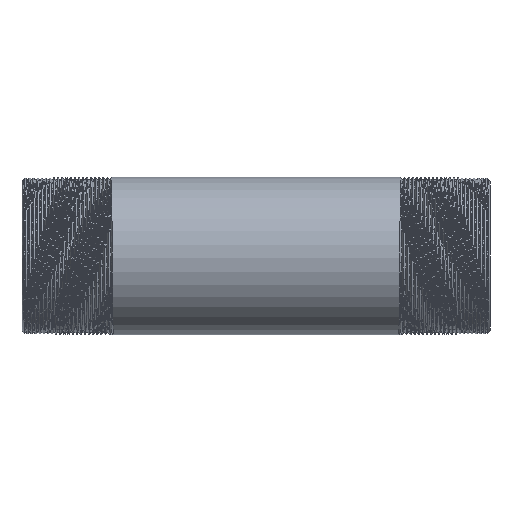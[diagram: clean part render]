
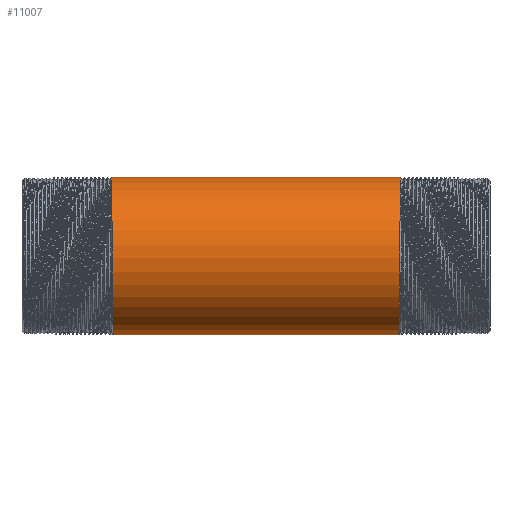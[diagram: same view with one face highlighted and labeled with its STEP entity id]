
A CAD part, front view. The second image highlights one B-rep face of the part: STEP entity #11007.
In plain terms, the highlighted cylindrical face has radius 13.45 mm (diameter 26.9 mm), a partial arc.
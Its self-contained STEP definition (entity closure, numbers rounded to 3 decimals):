
#71 = CARTESIAN_POINT ( 'NONE',  ( -24.621, -11.648, 6.725 ) ) ;
#1162 = DIRECTION ( 'NONE',  ( -1., 0., 0. ) ) ;
#1711 =( BOUNDED_CURVE ( )  B_SPLINE_CURVE ( 2, ( #7189, #7510, #16205, #8519, #2371, #4941, #13785 ),
 .UNSPECIFIED., .F., .T. ) 
 B_SPLINE_CURVE_WITH_KNOTS ( ( 3, 2, 2, 3 ),
 ( 0., 0.006, 0.011, 0.017 ),
 .UNSPECIFIED. ) 
 CURVE ( )  GEOMETRIC_REPRESENTATION_ITEM ( )  RATIONAL_B_SPLINE_CURVE ( ( 1., 0.866, 1., 0.866, 1., 0.866, 1. ) ) 
 REPRESENTATION_ITEM ( '' )  );
#1958 = ORIENTED_EDGE ( 'NONE', *, *, #3857, .F. ) ;
#2371 = CARTESIAN_POINT ( 'NONE',  ( 24.621, -11.648, 6.725 ) ) ;
#2486 = FACE_OUTER_BOUND ( 'NONE', #13089, .T. ) ;
#2636 = DIRECTION ( 'NONE',  ( -1., 0., 0. ) ) ;
#3365 = VECTOR ( 'NONE', #10180, 1000. ) ;
#3857 = EDGE_CURVE ( 'NONE', #6357, #6567, #11305, .T. ) ;
#4369 = EDGE_CURVE ( 'NONE', #9084, #6357, #8693, .T. ) ;
#4547 = ORIENTED_EDGE ( 'NONE', *, *, #4369, .F. ) ;
#4941 = CARTESIAN_POINT ( 'NONE',  ( 24.679, -7.765, 13.45 ) ) ;
#5143 = CARTESIAN_POINT ( 'NONE',  ( -24.679, -7.765, 13.45 ) ) ;
#6072 = LINE ( 'NONE', #7230, #10807 ) ;
#6357 = VERTEX_POINT ( 'NONE', #16415 ) ;
#6382 = CYLINDRICAL_SURFACE ( 'NONE', #9098, 13.45 ) ;
#6389 = CARTESIAN_POINT ( 'NONE',  ( -24.563, -15.531, 0. ) ) ;
#6567 = VERTEX_POINT ( 'NONE', #14900 ) ;
#7189 = CARTESIAN_POINT ( 'NONE',  ( 24.388, 0., -13.45 ) ) ;
#7230 = CARTESIAN_POINT ( 'NONE',  ( -149.494, 0., 13.45 ) ) ;
#7510 = CARTESIAN_POINT ( 'NONE',  ( 24.446, -7.765, -13.45 ) ) ;
#7626 = DIRECTION ( 'NONE',  ( 0., 0., 1. ) ) ;
#7989 = CARTESIAN_POINT ( 'NONE',  ( 24.388, 0., -13.45 ) ) ;
#8519 = CARTESIAN_POINT ( 'NONE',  ( 24.563, -15.531, 0. ) ) ;
#8693 = LINE ( 'NONE', #12688, #3365 ) ;
#9060 = VERTEX_POINT ( 'NONE', #12921 ) ;
#9084 = VERTEX_POINT ( 'NONE', #7989 ) ;
#9098 = AXIS2_PLACEMENT_3D ( 'NONE', #10135, #2636, #7626 ) ;
#9423 = ORIENTED_EDGE ( 'NONE', *, *, #13637, .T. ) ;
#10135 = CARTESIAN_POINT ( 'NONE',  ( -149.494, 0., 0. ) ) ;
#10180 = DIRECTION ( 'NONE',  ( -1., 0., 0. ) ) ;
#10218 = CARTESIAN_POINT ( 'NONE',  ( -24.738, 0., 13.45 ) ) ;
#10807 = VECTOR ( 'NONE', #1162, 1000. ) ;
#11007 = ADVANCED_FACE ( 'NONE', ( #2486 ), #6382, .T. ) ;
#11305 =( BOUNDED_CURVE ( )  B_SPLINE_CURVE ( 2, ( #15313, #13985, #13826, #6389, #71, #5143, #10218 ),
 .UNSPECIFIED., .F., .F. ) 
 B_SPLINE_CURVE_WITH_KNOTS ( ( 3, 2, 2, 3 ),
 ( 0., 0.006, 0.011, 0.017 ),
 .UNSPECIFIED. ) 
 CURVE ( )  GEOMETRIC_REPRESENTATION_ITEM ( )  RATIONAL_B_SPLINE_CURVE ( ( 1., 0.866, 1., 0.866, 1., 0.866, 1. ) ) 
 REPRESENTATION_ITEM ( '' )  );
#12688 = CARTESIAN_POINT ( 'NONE',  ( -149.494, 0., -13.45 ) ) ;
#12824 = ORIENTED_EDGE ( 'NONE', *, *, #13288, .T. ) ;
#12921 = CARTESIAN_POINT ( 'NONE',  ( 24.738, 0., 13.45 ) ) ;
#13089 = EDGE_LOOP ( 'NONE', ( #4547, #12824, #9423, #1958 ) ) ;
#13288 = EDGE_CURVE ( 'NONE', #9084, #9060, #1711, .T. ) ;
#13637 = EDGE_CURVE ( 'NONE', #9060, #6567, #6072, .T. ) ;
#13785 = CARTESIAN_POINT ( 'NONE',  ( 24.738, 0., 13.45 ) ) ;
#13826 = CARTESIAN_POINT ( 'NONE',  ( -24.504, -11.648, -6.725 ) ) ;
#13985 = CARTESIAN_POINT ( 'NONE',  ( -24.446, -7.765, -13.45 ) ) ;
#14900 = CARTESIAN_POINT ( 'NONE',  ( -24.738, 0., 13.45 ) ) ;
#15313 = CARTESIAN_POINT ( 'NONE',  ( -24.388, 0., -13.45 ) ) ;
#16205 = CARTESIAN_POINT ( 'NONE',  ( 24.504, -11.648, -6.725 ) ) ;
#16415 = CARTESIAN_POINT ( 'NONE',  ( -24.388, 0., -13.45 ) ) ;
